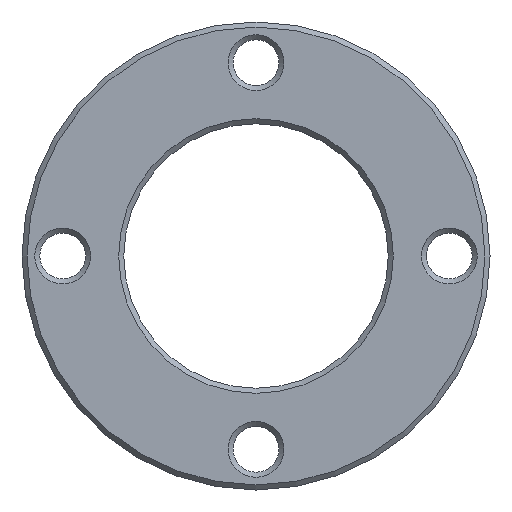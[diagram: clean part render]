
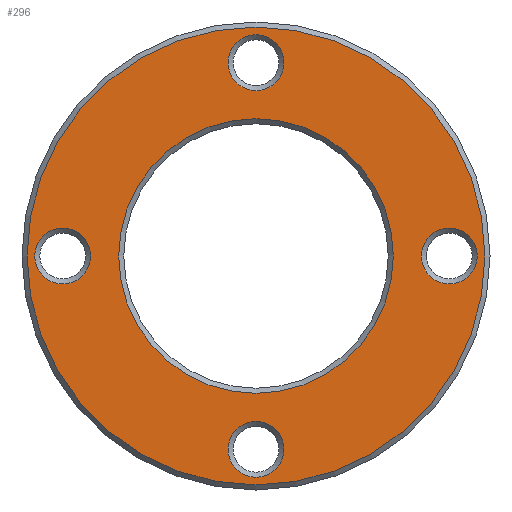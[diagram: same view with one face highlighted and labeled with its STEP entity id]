
A CAD part, front view. The second image highlights one B-rep face of the part: STEP entity #296.
In plain terms, the highlighted planar face has unit normal (0, -1, 0).
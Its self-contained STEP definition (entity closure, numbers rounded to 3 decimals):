
#29=PLANE('',#333);
#47=FACE_BOUND('',#109,.T.);
#48=FACE_BOUND('',#110,.T.);
#49=FACE_BOUND('',#111,.T.);
#50=FACE_BOUND('',#112,.T.);
#51=FACE_BOUND('',#113,.T.);
#75=FACE_OUTER_BOUND('',#108,.T.);
#108=EDGE_LOOP('',(#248));
#109=EDGE_LOOP('',(#249));
#110=EDGE_LOOP('',(#250));
#111=EDGE_LOOP('',(#251));
#112=EDGE_LOOP('',(#252));
#113=EDGE_LOOP('',(#253));
#159=CIRCLE('',#330,13.5);
#161=CIRCLE('',#334,22.5);
#162=CIRCLE('',#335,2.75);
#163=CIRCLE('',#336,2.75);
#164=CIRCLE('',#337,2.75);
#165=CIRCLE('',#338,2.75);
#187=VERTEX_POINT('',#498);
#189=VERTEX_POINT('',#504);
#190=VERTEX_POINT('',#506);
#191=VERTEX_POINT('',#508);
#192=VERTEX_POINT('',#510);
#193=VERTEX_POINT('',#512);
#215=EDGE_CURVE('',#187,#187,#159,.T.);
#217=EDGE_CURVE('',#189,#189,#161,.T.);
#218=EDGE_CURVE('',#190,#190,#162,.T.);
#219=EDGE_CURVE('',#191,#191,#163,.T.);
#220=EDGE_CURVE('',#192,#192,#164,.T.);
#221=EDGE_CURVE('',#193,#193,#165,.T.);
#248=ORIENTED_EDGE('',*,*,#217,.F.);
#249=ORIENTED_EDGE('',*,*,#218,.F.);
#250=ORIENTED_EDGE('',*,*,#219,.F.);
#251=ORIENTED_EDGE('',*,*,#220,.F.);
#252=ORIENTED_EDGE('',*,*,#221,.F.);
#253=ORIENTED_EDGE('',*,*,#215,.F.);
#296=ADVANCED_FACE('',(#75,#47,#48,#49,#50,#51),#29,.T.);
#330=AXIS2_PLACEMENT_3D('',#499,#397,#398);
#333=AXIS2_PLACEMENT_3D('',#503,#403,#404);
#334=AXIS2_PLACEMENT_3D('',#505,#405,#406);
#335=AXIS2_PLACEMENT_3D('',#507,#407,#408);
#336=AXIS2_PLACEMENT_3D('',#509,#409,#410);
#337=AXIS2_PLACEMENT_3D('',#511,#411,#412);
#338=AXIS2_PLACEMENT_3D('',#513,#413,#414);
#397=DIRECTION('center_axis',(0.,-1.,0.));
#398=DIRECTION('ref_axis',(0.,0.,-1.));
#403=DIRECTION('center_axis',(0.,-1.,0.));
#404=DIRECTION('ref_axis',(0.,0.,-1.));
#405=DIRECTION('center_axis',(0.,1.,0.));
#406=DIRECTION('ref_axis',(0.,0.,-1.));
#407=DIRECTION('center_axis',(0.,-1.,0.));
#408=DIRECTION('ref_axis',(1.,0.,0.));
#409=DIRECTION('center_axis',(0.,-1.,0.));
#410=DIRECTION('ref_axis',(-1.,0.,0.));
#411=DIRECTION('center_axis',(0.,-1.,0.));
#412=DIRECTION('ref_axis',(0.,0.,1.));
#413=DIRECTION('center_axis',(0.,-1.,0.));
#414=DIRECTION('ref_axis',(0.,0.,-1.));
#498=CARTESIAN_POINT('',(0.,0.,13.5));
#499=CARTESIAN_POINT('Origin',(0.,0.,0.));
#503=CARTESIAN_POINT('Origin',(0.,0.,19.));
#504=CARTESIAN_POINT('',(0.,0.,22.5));
#505=CARTESIAN_POINT('Origin',(0.,0.,0.));
#506=CARTESIAN_POINT('',(-2.75,0.,-19.));
#507=CARTESIAN_POINT('Origin',(0.,0.,-19.));
#508=CARTESIAN_POINT('',(2.75,0.,19.));
#509=CARTESIAN_POINT('Origin',(0.,0.,19.));
#510=CARTESIAN_POINT('',(19.,0.,-2.75));
#511=CARTESIAN_POINT('Origin',(19.,0.,0.));
#512=CARTESIAN_POINT('',(-19.,0.,2.75));
#513=CARTESIAN_POINT('Origin',(-19.,0.,0.));
